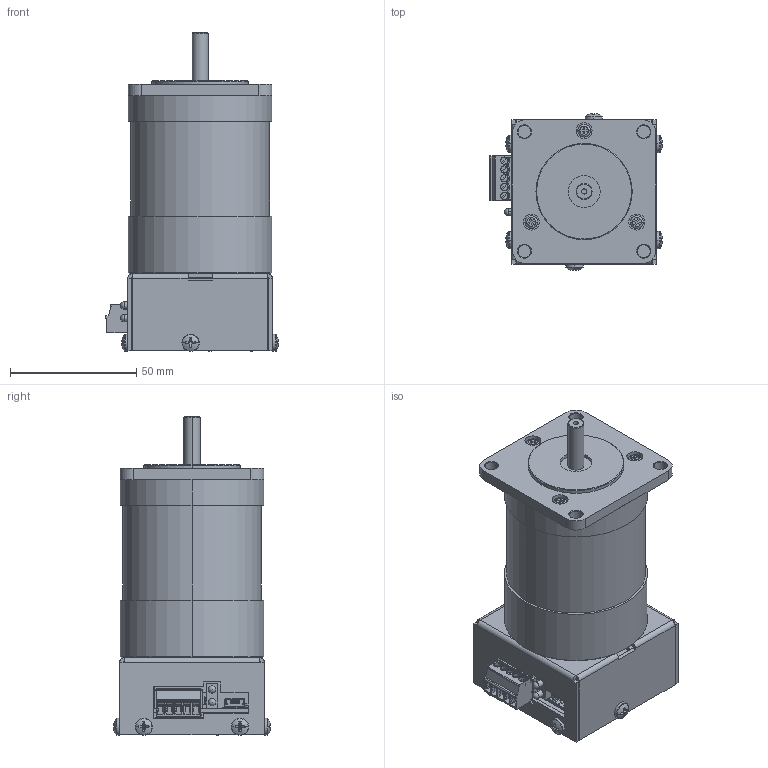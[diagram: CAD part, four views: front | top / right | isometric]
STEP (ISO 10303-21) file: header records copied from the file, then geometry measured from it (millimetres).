
FILE_DESCRIPTION (( 'STEP AP214' ), '1' );
FILE_NAME ('BLWS23MDCUSB23-24V-4000.STEP', '2016-02-03T00:44:30', ( '' ), ( '' ), 'SwSTEP 2.0', 'SolidWorks 2016', '' );
FILE_SCHEMA (( 'AUTOMOTIVE_DESIGN' ));
Length unit declared in the file: inch
Products named in the file (21): TRS-IRFU3607PBF with 90degree bent UP legs; LED-T-1-Series_LED-T-1-GRN; LED-LTM Series_LED-LTM150; RES-3W-JAPSTYLE.25; CON-B5B-EH-A; CAP-0223; AA6550PCB; 55pan cross head_ai_CR-PHMS 0.138-32x0.25x0.25-S; Heat Sink, BLWS23MDCUSB Series; BLWR23MDAUSB Cover; 1840395; BLWS23-BLWR23 Series_BLWS23MDA3; 55pan cross head_ai_CR-PHMS 0.112-40x0.25x0.25-S; 55pan cross head_ai_CR-PHMS 0.112-40x0.3125x0.3125-S; BLWS23MDCUSB23-24V-4000; TPE-661001001674-1.0X1.125; SUB-AA6550-1; CON-UX60SC-MB-5ST80; UX60SC-MB-5ST; LED-0008; 1844249
Assembly tree (32 placements, depth 4):
  BLWS23MDCUSB23-24V-4000
    BLWS23-BLWR23 Series_BLWS23MDA3
    BLWR23MDAUSB Cover
    Heat Sink, BLWS23MDCUSB Series
    55pan cross head_ai_CR-PHMS 0.138-32x0.25x0.25-S  x6
    SUB-AA6550-1
      AA6550PCB
      CAP-0223
      CON-B5B-EH-A
      RES-3W-JAPSTYLE.25
      LED-LTM Series_LED-LTM150
      LED-T-1-Series_LED-T-1-GRN
      TRS-IRFU3607PBF with 90degree bent UP legs  x6
      1844249
      LED-0008
      CON-UX60SC-MB-5ST80
        UX60SC-MB-5ST
    TPE-661001001674-1.0X1.125
    55pan cross head_ai_CR-PHMS 0.112-40x0.3125x0.3125-S  x2
    55pan cross head_ai_CR-PHMS 0.112-40x0.25x0.25-S  x2
    1840395
Bounding box: 68.57 x 62.13 x 126.29 mm (x, y, z)
Volume: 230416.5 mm3; surface area: 64412.5 mm2
Topology: 30 solids, 30 shells, 3812 faces, 9987 edges, 6432 vertices
Faces by surface type: plane 2057, cylinder 850, cone 481, bspline 361, torus 40, sphere 23
Entity records: 145533 total; most frequent: CARTESIAN_POINT 36756, ORIENTED_EDGE 16058, DIRECTION 13860, EDGE_CURVE 8029, VECTOR 5388, LINE 5388, VERTEX_POINT 5208, AXIS2_PLACEMENT_3D 4236
